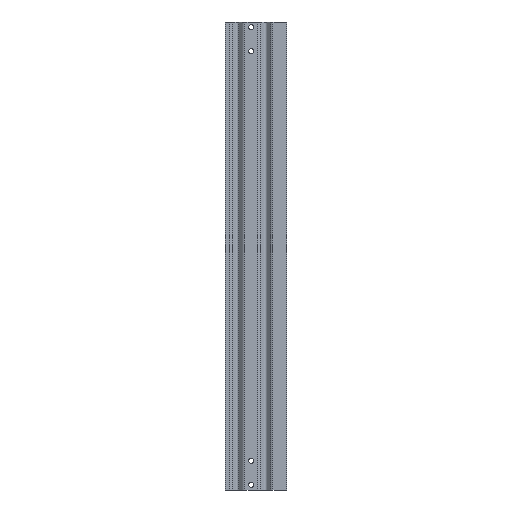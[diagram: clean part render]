
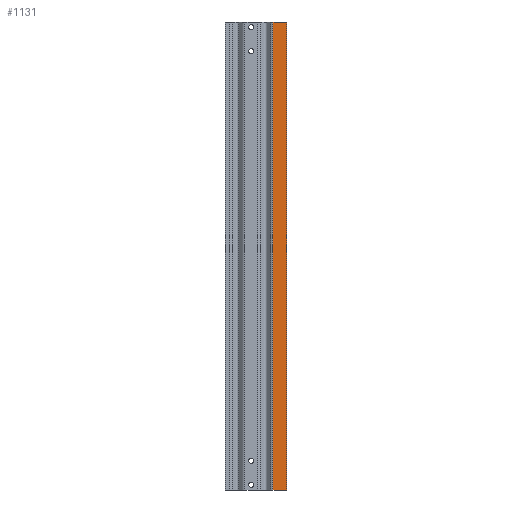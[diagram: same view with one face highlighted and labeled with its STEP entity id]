
A CAD part, left-side view. The second image highlights one B-rep face of the part: STEP entity #1131.
In plain terms, the highlighted planar face has unit normal (-1, 0, 0).
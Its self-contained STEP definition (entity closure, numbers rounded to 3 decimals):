
#185=CARTESIAN_POINT('',(0.0,0.0,-959.5));
#186=VERTEX_POINT('',#185);
#195=CARTESIAN_POINT('',(0.,28.822,-959.5));
#196=VERTEX_POINT('',#195);
#197=CARTESIAN_POINT('',(0.,28.822,-959.5));
#198=DIRECTION('',(0.0,-1.0,0.0));
#199=VECTOR('',#198,28.822);
#200=LINE('',#197,#199);
#201=EDGE_CURVE('',#196,#186,#200,.T.);
#429=CARTESIAN_POINT('',(0.,28.822,36.5));
#430=VERTEX_POINT('',#429);
#447=CARTESIAN_POINT('',(0.,28.822,36.5));
#448=DIRECTION('',(0.0,0.0,-1.0));
#449=VECTOR('',#448,996.);
#450=LINE('',#447,#449);
#451=EDGE_CURVE('',#430,#196,#450,.T.);
#1096=CARTESIAN_POINT('',(0.0,0.0,36.5));
#1097=VERTEX_POINT('',#1096);
#1104=CARTESIAN_POINT('',(0.0,0.0,-959.5));
#1105=DIRECTION('',(0.0,0.0,1.0));
#1106=VECTOR('',#1105,996.);
#1107=LINE('',#1104,#1106);
#1108=EDGE_CURVE('',#186,#1097,#1107,.T.);
#1115=CARTESIAN_POINT('',(0.0,0.0,0.0));
#1116=DIRECTION('',(-1.0,0.0,0.0));
#1117=DIRECTION('',(0.0,0.0,1.0));
#1118=AXIS2_PLACEMENT_3D('',#1115,#1116,#1117);
#1119=PLANE('',#1118);
#1120=CARTESIAN_POINT('',(0.0,0.0,36.5));
#1121=DIRECTION('',(0.0,1.0,0.0));
#1122=VECTOR('',#1121,28.822);
#1123=LINE('',#1120,#1122);
#1124=EDGE_CURVE('',#1097,#430,#1123,.T.);
#1125=ORIENTED_EDGE('',*,*,#1124,.T.);
#1126=ORIENTED_EDGE('',*,*,#451,.T.);
#1127=ORIENTED_EDGE('',*,*,#201,.T.);
#1128=ORIENTED_EDGE('',*,*,#1108,.T.);
#1129=EDGE_LOOP('',(#1125,#1126,#1127,#1128));
#1130=FACE_OUTER_BOUND('',#1129,.T.);
#1131=ADVANCED_FACE('',(#1130),#1119,.T.);
